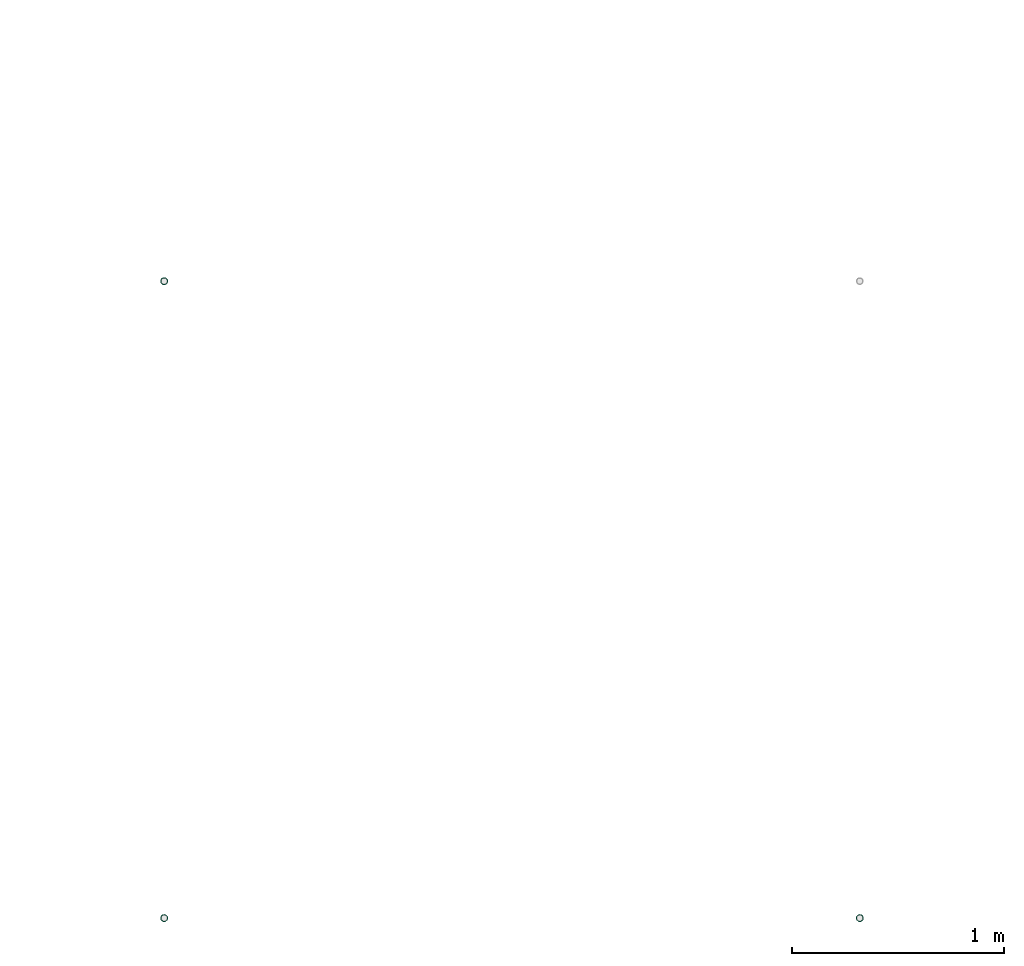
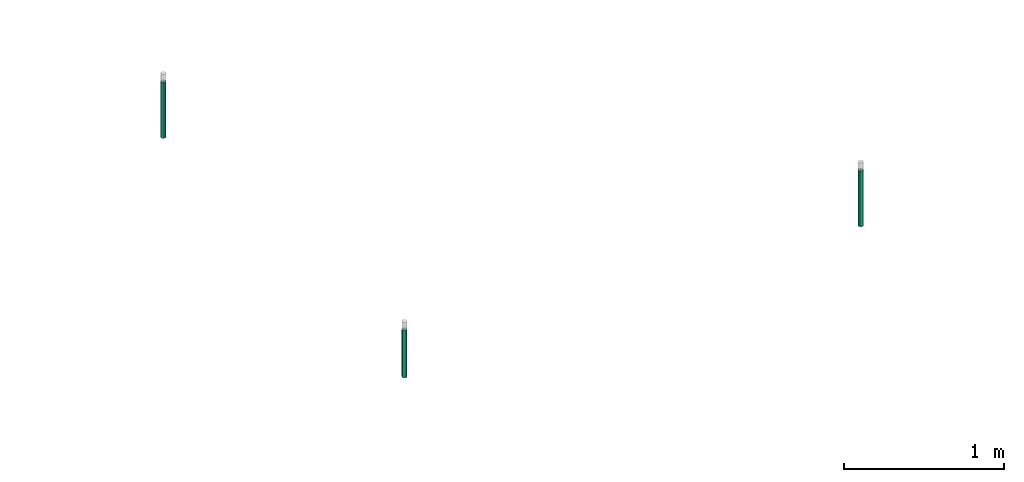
# One storey, part 12 of 14: 3 flow segments.
"""IFC2X3 building model written with IfcOpenShell, lengths in millimetres."""

from ifc_helpers import new_model, entity, si_unit, converted_unit, derived_unit, direction, frame, place, context, subcontext, project, spatial, faceted_brep, type_object, element, save


model = new_model("IFC2X3")

# Units and contexts
model_context = context("Model", 3, precision=0.01, world=frame((0.0, 4.29681676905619e-09, 0.0)), true_north=direction((4.01073788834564e-13, 1.0)))
plan_context = context("Plan", 3, precision=0.01, world=frame((0.0, 4.29681676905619e-09, 0.0)), true_north=direction((4.01073788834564e-13, 1.0)))
body_context = subcontext(model_context, "Body", "Model", "MODEL_VIEW")
ifc_project = project(units=[converted_unit("PLANEANGLEUNIT", "DEGREE", entity("IfcPositiveLengthMeasure", 0.0174532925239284), si_unit("PLANEANGLEUNIT", "RADIAN"), dimensions=[0, 0, 0, 0, 0, 0, 0]), si_unit("AREAUNIT", "SQUARE_METRE"), si_unit("LENGTHUNIT", "METRE", prefix="MILLI"), si_unit("MASSUNIT", "GRAM", prefix="KILO"), si_unit("POWERUNIT", "WATT"), si_unit("PRESSUREUNIT", "PASCAL", prefix="KILO"), si_unit("FORCEUNIT", "NEWTON", prefix="KILO"), si_unit("ELECTRICVOLTAGEUNIT", "VOLT"), si_unit("ELECTRICCURRENTUNIT", "AMPERE"), si_unit("THERMODYNAMICTEMPERATUREUNIT", "DEGREE_CELSIUS"), si_unit("TIMEUNIT", "SECOND"), si_unit("VOLUMEUNIT", "CUBIC_METRE"), derived_unit("LINEARVELOCITYUNIT", [(si_unit("LENGTHUNIT", "METRE"), 1), (si_unit("TIMEUNIT", "SECOND"), -1)]), derived_unit("VOLUMETRICFLOWRATEUNIT", [(si_unit("VOLUMEUNIT", "CUBIC_METRE"), 1), (si_unit("TIMEUNIT", "SECOND"), -1)]), derived_unit("THERMALTRANSMITTANCEUNIT", [(si_unit("POWERUNIT", "WATT"), 1), (si_unit("THERMODYNAMICTEMPERATUREUNIT", "KELVIN"), -1), (si_unit("AREAUNIT", "SQUARE_METRE"), -1)]), derived_unit("SOUNDPRESSUREUNIT", [(si_unit("PRESSUREUNIT", "PASCAL"), 1)])], contexts=[model_context, plan_context])

# Site, building, storey
site_placement = place(None, frame((0.0, -4.29681676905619e-09, 0.0), z_axis=(0.0, 0.0, 1.0), x_axis=(1.0, 0.0, 0.0)))
site = spatial("IfcSite", under=ifc_project, at=site_placement, CompositionType="ELEMENT")
building_placement = place(site_placement, frame((0.0, 4.29681676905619e-09, 0.0), z_axis=(0.0, 0.0, 1.0), x_axis=(1.0, 0.0, 0.0)))
building = spatial("IfcBuilding", under=site, at=building_placement, Name="mc-building", CompositionType="ELEMENT")
storey_placement = place(building_placement, frame((0.0, 0.0, 204000.0), z_axis=(0.0, 0.0, 1.0), x_axis=(1.0, 0.0, 0.0)))
storey = spatial("IfcBuildingStorey", under=building, at=storey_placement, Name="Nivå D", CompositionType="ELEMENT", Elevation=204000.0)

# Flow segments
pipe_segment_type = type_object("IfcPipeSegmentType", Name="Stålrør normaltykke", PredefinedType="RIGIDSEGMENT")
flow_segment_1_placement = place(storey_placement, frame((592000.0, 573505.33925, 5536.29999999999), z_axis=(0.0, 1.0, 0.0), x_axis=(0.0, 0.0, 1.0)))
element("IfcFlowSegment", 1, at=flow_segment_1_placement, inside=storey, type_object=pipe_segment_type, Name="Stålrør normaltykke", context=body_context, shape_type="Brep", body=[
    faceted_brep([(363.700000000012, 14.6736355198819, -2.58735784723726), (363.700000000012, 14.9, 0.0), (787.3, 14.9, 0.0), (787.3, 14.6736355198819, -2.58735784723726), (363.700000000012, 14.00142004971, -5.09610013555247), (787.3, 14.00142004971, -5.09610013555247), (363.700000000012, 12.9037785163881, -7.45), (787.3, 12.9037785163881, -7.45000000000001), (363.700000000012, 11.4140622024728, -9.57753538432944), (787.3, 11.4140622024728, -9.57753538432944), (363.700000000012, 9.57753538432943, -11.4140622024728), (787.3, 9.57753538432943, -11.4140622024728), (363.700000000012, 7.45, -12.9037785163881), (787.3, 7.45, -12.9037785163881), (363.700000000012, 5.09610013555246, -14.00142004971), (787.3, 5.09610013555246, -14.00142004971), (363.700000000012, 2.58735784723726, -14.6736355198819), (787.3, 2.58735784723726, -14.6736355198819), (363.700000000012, -2.73708559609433e-15, -14.9), (787.3, -2.73708559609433e-15, -14.9), (363.700000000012, -2.58735784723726, -14.6736355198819), (787.3, -2.58735784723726, -14.6736355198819), (363.700000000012, -5.09610013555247, -14.00142004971), (787.3, -5.09610013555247, -14.00142004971), (363.700000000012, -7.45, -12.9037785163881), (787.3, -7.45000000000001, -12.9037785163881), (363.700000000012, -9.57753538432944, -11.4140622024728), (787.3, -9.57753538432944, -11.4140622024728), (363.700000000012, -11.4140622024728, -9.57753538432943), (787.3, -11.4140622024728, -9.57753538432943), (363.700000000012, -12.9037785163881, -7.44999999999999), (787.3, -12.9037785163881, -7.44999999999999), (363.700000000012, -14.00142004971, -5.09610013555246), (787.3, -14.00142004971, -5.09610013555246), (363.700000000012, -14.6736355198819, -2.58735784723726), (787.3, -14.6736355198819, -2.58735784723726), (363.700000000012, -14.9, 1.82472373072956e-15), (787.3, -14.9, 1.82472373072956e-15), (363.700000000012, -14.6736355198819, 2.58735784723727), (787.3, -14.6736355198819, 2.58735784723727), (363.700000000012, -14.00142004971, 5.09610013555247), (787.3, -14.00142004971, 5.09610013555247), (363.700000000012, -12.9037785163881, 7.45), (787.3, -12.9037785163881, 7.45), (363.700000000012, -11.4140622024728, 9.57753538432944), (787.3, -11.4140622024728, 9.57753538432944), (363.700000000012, -9.57753538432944, 11.4140622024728), (787.3, -9.57753538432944, 11.4140622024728), (363.700000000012, -7.45, 12.9037785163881), (787.3, -7.45, 12.9037785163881), (363.700000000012, -5.09610013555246, 14.00142004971), (787.3, -5.09610013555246, 14.00142004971), (363.700000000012, -2.58735784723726, 14.6736355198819), (787.3, -2.58735784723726, 14.6736355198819), (363.700000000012, 9.12361865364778e-16, 14.9), (787.3, 9.12361865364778e-16, 14.9), (363.700000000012, 2.58735784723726, 14.6736355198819), (787.3, 2.58735784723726, 14.6736355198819), (363.700000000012, 5.09610013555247, 14.00142004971), (787.3, 5.09610013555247, 14.00142004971), (363.700000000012, 7.45, 12.9037785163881), (787.3, 7.45, 12.9037785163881), (363.700000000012, 9.57753538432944, 11.4140622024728), (787.3, 9.57753538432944, 11.4140622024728), (363.700000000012, 11.4140622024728, 9.57753538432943), (787.3, 11.4140622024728, 9.57753538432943), (363.700000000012, 12.9037785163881, 7.45), (787.3, 12.9037785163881, 7.45), (363.700000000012, 14.00142004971, 5.09610013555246), (787.3, 14.00142004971, 5.09610013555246), (363.700000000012, 14.6736355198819, 2.58735784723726), (787.3, 14.6736355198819, 2.58735784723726), (363.700000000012, 16.9, 0.0), (363.700000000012, 16.6432510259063, -2.93465420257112), (787.3, 16.6432510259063, -2.93465420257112), (787.3, 16.9, 0.0), (363.700000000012, 16.6432510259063, 2.93465420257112), (787.3, 16.6432510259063, 2.93465420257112), (363.700000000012, 15.8808052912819, 5.7801404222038), (787.3, 15.8808052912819, 5.7801404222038), (363.700000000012, 14.635829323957, 8.45), (787.3, 14.635829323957, 8.45), (363.700000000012, 12.9461510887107, 10.8631106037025), (787.3, 12.9461510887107, 10.8631106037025), (363.700000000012, 10.8631106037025, 12.9461510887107), (787.3, 10.8631106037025, 12.9461510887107), (363.700000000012, 8.45, 14.635829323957), (787.3, 8.45, 14.635829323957), (363.700000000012, 5.7801404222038, 15.8808052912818), (787.3, 5.7801404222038, 15.8808052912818), (363.700000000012, 2.93465420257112, 16.6432510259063), (787.3, 2.93465420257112, 16.6432510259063), (363.700000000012, 1.03482654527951e-15, 16.9), (787.3, 1.03482654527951e-15, 16.9), (363.700000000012, -2.93465420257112, 16.6432510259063), (787.3, -2.93465420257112, 16.6432510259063), (363.700000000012, -5.7801404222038, 15.8808052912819), (787.3, -5.7801404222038, 15.8808052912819), (363.700000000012, -8.45, 14.635829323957), (787.3, -8.45, 14.635829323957), (363.700000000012, -10.8631106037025, 12.9461510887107), (787.3, -10.8631106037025, 12.9461510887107), (363.700000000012, -12.9461510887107, 10.8631106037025), (787.3, -12.9461510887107, 10.8631106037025), (363.700000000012, -14.635829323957, 8.45), (787.3, -14.635829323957, 8.45), (363.700000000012, -15.8808052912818, 5.7801404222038), (787.3, -15.8808052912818, 5.7801404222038), (363.700000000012, -16.6432510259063, 2.93465420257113), (787.3, -16.6432510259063, 2.93465420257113), (363.700000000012, -16.9, 2.06965309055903e-15), (787.3, -16.9, 2.06965309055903e-15), (363.700000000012, -16.6432510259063, -2.93465420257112), (787.3, -16.6432510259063, -2.93465420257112), (363.700000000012, -15.8808052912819, -5.7801404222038), (787.3, -15.8808052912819, -5.7801404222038), (363.700000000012, -14.635829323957, -8.44999999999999), (787.3, -14.635829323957, -8.44999999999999), (363.700000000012, -12.9461510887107, -10.8631106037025), (787.3, -12.9461510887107, -10.8631106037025), (363.700000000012, -10.8631106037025, -12.9461510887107), (787.3, -10.8631106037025, -12.9461510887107), (363.700000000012, -8.45000000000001, -14.635829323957), (787.3, -8.45000000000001, -14.635829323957), (363.700000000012, -5.78014042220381, -15.8808052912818), (787.3, -5.78014042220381, -15.8808052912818), (363.700000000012, -2.93465420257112, -16.6432510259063), (787.3, -2.93465420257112, -16.6432510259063), (363.700000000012, -3.10447963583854e-15, -16.9), (787.3, -3.10447963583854e-15, -16.9), (363.700000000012, 2.93465420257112, -16.6432510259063), (787.3, 2.93465420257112, -16.6432510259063), (363.700000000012, 5.78014042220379, -15.8808052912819), (787.3, 5.78014042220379, -15.8808052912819), (363.700000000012, 8.45, -14.635829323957), (787.3, 8.45, -14.635829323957), (363.700000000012, 10.8631106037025, -12.9461510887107), (787.3, 10.8631106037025, -12.9461510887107), (363.700000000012, 12.9461510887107, -10.8631106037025), (787.3, 12.9461510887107, -10.8631106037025), (363.700000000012, 14.635829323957, -8.45000000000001), (787.3, 14.635829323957, -8.45000000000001), (363.700000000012, 15.8808052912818, -5.78014042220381), (787.3, 15.8808052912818, -5.78014042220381)], [[[0, 1, 2, 3]], [[4, 0, 3, 5]], [[6, 4, 5, 7]], [[8, 6, 7, 9]], [[10, 8, 9, 11]], [[12, 10, 11, 13]], [[14, 12, 13, 15]], [[16, 14, 15, 17]], [[18, 16, 17, 19]], [[20, 18, 19, 21]], [[22, 20, 21, 23]], [[24, 22, 23, 25]], [[26, 24, 25, 27]], [[28, 26, 27, 29]], [[30, 28, 29, 31]], [[32, 30, 31, 33]], [[34, 32, 33, 35]], [[36, 34, 35, 37]], [[38, 36, 37, 39]], [[40, 38, 39, 41]], [[42, 40, 41, 43]], [[44, 42, 43, 45]], [[46, 44, 45, 47]], [[48, 46, 47, 49]], [[50, 48, 49, 51]], [[52, 50, 51, 53]], [[54, 52, 53, 55]], [[56, 54, 55, 57]], [[58, 56, 57, 59]], [[60, 58, 59, 61]], [[62, 60, 61, 63]], [[64, 62, 63, 65]], [[66, 64, 65, 67]], [[68, 66, 67, 69]], [[70, 68, 69, 71]], [[1, 70, 71, 2]], [[72, 73, 74, 75]], [[76, 72, 75, 77]], [[78, 76, 77, 79]], [[80, 78, 79, 81]], [[82, 80, 81, 83]], [[84, 82, 83, 85]], [[86, 84, 85, 87]], [[88, 86, 87, 89]], [[90, 88, 89, 91]], [[92, 90, 91, 93]], [[94, 92, 93, 95]], [[96, 94, 95, 97]], [[98, 96, 97, 99]], [[100, 98, 99, 101]], [[102, 100, 101, 103]], [[104, 102, 103, 105]], [[106, 104, 105, 107]], [[108, 106, 107, 109]], [[110, 108, 109, 111]], [[112, 110, 111, 113]], [[114, 112, 113, 115]], [[116, 114, 115, 117]], [[118, 116, 117, 119]], [[120, 118, 119, 121]], [[122, 120, 121, 123]], [[124, 122, 123, 125]], [[126, 124, 125, 127]], [[128, 126, 127, 129]], [[130, 128, 129, 131]], [[132, 130, 131, 133]], [[134, 132, 133, 135]], [[136, 134, 135, 137]], [[138, 136, 137, 139]], [[140, 138, 139, 141]], [[142, 140, 141, 143]], [[73, 142, 143, 74]], [[75, 74, 143, 141, 139, 137, 135, 133, 131, 129, 127, 125, 123, 121, 119, 117, 115, 113, 111, 109, 107, 105, 103, 101, 99, 97, 95, 93, 91, 89, 87, 85, 83, 81, 79, 77], [2, 71, 69, 67, 65, 63, 61, 59, 57, 55, 53, 51, 49, 47, 45, 43, 41, 39, 37, 35, 33, 31, 29, 27, 25, 23, 21, 19, 17, 15, 13, 11, 9, 7, 5, 3]], [[76, 78, 80, 82, 84, 86, 88, 90, 92, 94, 96, 98, 100, 102, 104, 106, 108, 110, 112, 114, 116, 118, 120, 122, 124, 126, 128, 130, 132, 134, 136, 138, 140, 142, 73, 72], [4, 6, 8, 10, 12, 14, 16, 18, 20, 22, 24, 26, 28, 30, 32, 34, 36, 38, 40, 42, 44, 46, 48, 50, 52, 54, 56, 58, 60, 62, 64, 66, 68, 70, 1, 0]]], orient=[[False], [False], [False], [False], [False], [False], [False], [False], [False], [False], [False], [False], [False], [False], [False], [False], [False], [False], [False], [False], [False], [False], [False], [False], [False], [False], [False], [False], [False], [False], [False], [False], [False], [False], [False], [False], [False], [False], [False], [False], [False], [False], [False], [False], [False], [False], [False], [False], [False], [False], [False], [False], [False], [False], [False], [False], [False], [False], [False], [False], [False], [False], [False], [False], [False], [False], [False], [False], [False], [False], [False], [False], [False, False], [False, False]]),
])
flow_segment_2_placement = place(storey_placement, frame((592000.0, 570500.0, 5536.29999999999), z_axis=(0.0, 1.0, 0.0), x_axis=(0.0, 0.0, 1.0)))
element("IfcFlowSegment", 2, at=flow_segment_2_placement, inside=storey, type_object=pipe_segment_type, Name="Stålrør normaltykke", context=body_context, shape_type="Brep", body=[
    faceted_brep([(363.700000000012, 14.6736355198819, -2.58735784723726), (363.700000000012, 14.9, 0.0), (723.9, 14.9, 0.0), (723.9, 14.6736355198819, -2.58735784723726), (363.700000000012, 14.00142004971, -5.09610013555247), (723.9, 14.00142004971, -5.09610013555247), (363.700000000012, 12.9037785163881, -7.45000000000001), (723.9, 12.9037785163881, -7.45000000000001), (363.700000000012, 11.4140622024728, -9.57753538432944), (723.9, 11.4140622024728, -9.57753538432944), (363.700000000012, 9.57753538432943, -11.4140622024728), (723.9, 9.57753538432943, -11.4140622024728), (363.700000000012, 7.45, -12.9037785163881), (723.9, 7.45, -12.9037785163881), (363.700000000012, 5.09610013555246, -14.00142004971), (723.9, 5.09610013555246, -14.00142004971), (363.700000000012, 2.58735784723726, -14.6736355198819), (723.9, 2.58735784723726, -14.6736355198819), (363.700000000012, -2.73708559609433e-15, -14.9), (723.9, -2.73708559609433e-15, -14.9), (363.700000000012, -2.58735784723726, -14.6736355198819), (723.9, -2.58735784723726, -14.6736355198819), (363.700000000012, -5.09610013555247, -14.00142004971), (723.9, -5.09610013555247, -14.00142004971), (363.700000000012, -7.45000000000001, -12.9037785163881), (723.9, -7.45000000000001, -12.9037785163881), (363.700000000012, -9.57753538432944, -11.4140622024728), (723.9, -9.57753538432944, -11.4140622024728), (363.700000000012, -11.4140622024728, -9.57753538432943), (723.9, -11.4140622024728, -9.57753538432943), (363.700000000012, -12.9037785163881, -7.44999999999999), (723.9, -12.9037785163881, -7.44999999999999), (363.700000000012, -14.00142004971, -5.09610013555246), (723.9, -14.00142004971, -5.09610013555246), (363.700000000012, -14.6736355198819, -2.58735784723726), (723.9, -14.6736355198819, -2.58735784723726), (363.700000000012, -14.9, 1.82472373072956e-15), (723.9, -14.9, 1.82472373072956e-15), (363.700000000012, -14.6736355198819, 2.58735784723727), (723.9, -14.6736355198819, 2.58735784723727), (363.700000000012, -14.00142004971, 5.09610013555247), (723.9, -14.00142004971, 5.09610013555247), (363.700000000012, -12.9037785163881, 7.45), (723.9, -12.9037785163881, 7.45), (363.700000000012, -11.4140622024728, 9.57753538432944), (723.9, -11.4140622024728, 9.57753538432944), (363.700000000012, -9.57753538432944, 11.4140622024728), (723.9, -9.57753538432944, 11.4140622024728), (363.700000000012, -7.45, 12.9037785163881), (723.9, -7.45, 12.9037785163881), (363.700000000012, -5.09610013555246, 14.00142004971), (723.9, -5.09610013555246, 14.00142004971), (363.700000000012, -2.58735784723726, 14.6736355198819), (723.9, -2.58735784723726, 14.6736355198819), (363.700000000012, 9.12361865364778e-16, 14.9), (723.9, 9.12361865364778e-16, 14.9), (363.700000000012, 2.58735784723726, 14.6736355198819), (723.9, 2.58735784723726, 14.6736355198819), (363.700000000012, 5.09610013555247, 14.00142004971), (723.9, 5.09610013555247, 14.00142004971), (363.700000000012, 7.45, 12.9037785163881), (723.9, 7.45, 12.9037785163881), (363.700000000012, 9.57753538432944, 11.4140622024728), (723.9, 9.57753538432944, 11.4140622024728), (363.700000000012, 11.4140622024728, 9.57753538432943), (723.9, 11.4140622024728, 9.57753538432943), (363.700000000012, 12.9037785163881, 7.45), (723.9, 12.9037785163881, 7.45), (363.700000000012, 14.00142004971, 5.09610013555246), (723.9, 14.00142004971, 5.09610013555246), (363.700000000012, 14.6736355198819, 2.58735784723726), (723.9, 14.6736355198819, 2.58735784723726), (363.700000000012, 16.9, 0.0), (363.700000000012, 16.6432510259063, -2.93465420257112), (723.9, 16.6432510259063, -2.93465420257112), (723.9, 16.9, 0.0), (363.700000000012, 16.6432510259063, 2.93465420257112), (723.9, 16.6432510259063, 2.93465420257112), (363.700000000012, 15.8808052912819, 5.7801404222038), (723.9, 15.8808052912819, 5.7801404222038), (363.700000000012, 14.635829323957, 8.45), (723.9, 14.635829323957, 8.45), (363.700000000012, 12.9461510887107, 10.8631106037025), (723.9, 12.9461510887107, 10.8631106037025), (363.700000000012, 10.8631106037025, 12.9461510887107), (723.9, 10.8631106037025, 12.9461510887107), (363.700000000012, 8.45, 14.635829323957), (723.9, 8.45, 14.635829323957), (363.700000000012, 5.7801404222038, 15.8808052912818), (723.9, 5.7801404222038, 15.8808052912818), (363.700000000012, 2.93465420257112, 16.6432510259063), (723.9, 2.93465420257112, 16.6432510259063), (363.700000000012, 1.03482654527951e-15, 16.9), (723.9, 1.03482654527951e-15, 16.9), (363.700000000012, -2.93465420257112, 16.6432510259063), (723.9, -2.93465420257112, 16.6432510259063), (363.700000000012, -5.7801404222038, 15.8808052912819), (723.9, -5.7801404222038, 15.8808052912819), (363.700000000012, -8.45, 14.635829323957), (723.9, -8.45, 14.635829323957), (363.700000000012, -10.8631106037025, 12.9461510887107), (723.9, -10.8631106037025, 12.9461510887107), (363.700000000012, -12.9461510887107, 10.8631106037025), (723.9, -12.9461510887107, 10.8631106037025), (363.700000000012, -14.635829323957, 8.45), (723.9, -14.635829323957, 8.45), (363.700000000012, -15.8808052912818, 5.7801404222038), (723.9, -15.8808052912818, 5.7801404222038), (363.700000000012, -16.6432510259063, 2.93465420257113), (723.9, -16.6432510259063, 2.93465420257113), (363.700000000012, -16.9, 2.06965309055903e-15), (723.9, -16.9, 2.06965309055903e-15), (363.700000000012, -16.6432510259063, -2.93465420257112), (723.9, -16.6432510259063, -2.93465420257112), (363.700000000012, -15.8808052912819, -5.7801404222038), (723.9, -15.8808052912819, -5.7801404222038), (363.700000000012, -14.635829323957, -8.44999999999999), (723.9, -14.635829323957, -8.44999999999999), (363.700000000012, -12.9461510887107, -10.8631106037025), (723.9, -12.9461510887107, -10.8631106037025), (363.700000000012, -10.8631106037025, -12.9461510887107), (723.9, -10.8631106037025, -12.9461510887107), (363.700000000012, -8.45000000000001, -14.635829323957), (723.9, -8.45000000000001, -14.635829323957), (363.700000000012, -5.78014042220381, -15.8808052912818), (723.9, -5.78014042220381, -15.8808052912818), (363.700000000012, -2.93465420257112, -16.6432510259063), (723.9, -2.93465420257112, -16.6432510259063), (363.700000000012, -3.10447963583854e-15, -16.9), (723.9, -3.10447963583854e-15, -16.9), (363.700000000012, 2.93465420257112, -16.6432510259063), (723.9, 2.93465420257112, -16.6432510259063), (363.700000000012, 5.78014042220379, -15.8808052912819), (723.9, 5.78014042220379, -15.8808052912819), (363.700000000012, 8.45, -14.635829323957), (723.9, 8.45, -14.635829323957), (363.700000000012, 10.8631106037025, -12.9461510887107), (723.9, 10.8631106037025, -12.9461510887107), (363.700000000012, 12.9461510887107, -10.8631106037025), (723.9, 12.9461510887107, -10.8631106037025), (363.700000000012, 14.635829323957, -8.45000000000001), (723.9, 14.635829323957, -8.45000000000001), (363.700000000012, 15.8808052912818, -5.78014042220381), (723.9, 15.8808052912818, -5.78014042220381)], [[[0, 1, 2, 3]], [[4, 0, 3, 5]], [[6, 4, 5, 7]], [[8, 6, 7, 9]], [[10, 8, 9, 11]], [[12, 10, 11, 13]], [[14, 12, 13, 15]], [[16, 14, 15, 17]], [[18, 16, 17, 19]], [[20, 18, 19, 21]], [[22, 20, 21, 23]], [[24, 22, 23, 25]], [[26, 24, 25, 27]], [[28, 26, 27, 29]], [[30, 28, 29, 31]], [[32, 30, 31, 33]], [[34, 32, 33, 35]], [[36, 34, 35, 37]], [[38, 36, 37, 39]], [[40, 38, 39, 41]], [[42, 40, 41, 43]], [[44, 42, 43, 45]], [[46, 44, 45, 47]], [[48, 46, 47, 49]], [[50, 48, 49, 51]], [[52, 50, 51, 53]], [[54, 52, 53, 55]], [[56, 54, 55, 57]], [[58, 56, 57, 59]], [[60, 58, 59, 61]], [[62, 60, 61, 63]], [[64, 62, 63, 65]], [[66, 64, 65, 67]], [[68, 66, 67, 69]], [[70, 68, 69, 71]], [[1, 70, 71, 2]], [[72, 73, 74, 75]], [[76, 72, 75, 77]], [[78, 76, 77, 79]], [[80, 78, 79, 81]], [[82, 80, 81, 83]], [[84, 82, 83, 85]], [[86, 84, 85, 87]], [[88, 86, 87, 89]], [[90, 88, 89, 91]], [[92, 90, 91, 93]], [[94, 92, 93, 95]], [[96, 94, 95, 97]], [[98, 96, 97, 99]], [[100, 98, 99, 101]], [[102, 100, 101, 103]], [[104, 102, 103, 105]], [[106, 104, 105, 107]], [[108, 106, 107, 109]], [[110, 108, 109, 111]], [[112, 110, 111, 113]], [[114, 112, 113, 115]], [[116, 114, 115, 117]], [[118, 116, 117, 119]], [[120, 118, 119, 121]], [[122, 120, 121, 123]], [[124, 122, 123, 125]], [[126, 124, 125, 127]], [[128, 126, 127, 129]], [[130, 128, 129, 131]], [[132, 130, 131, 133]], [[134, 132, 133, 135]], [[136, 134, 135, 137]], [[138, 136, 137, 139]], [[140, 138, 139, 141]], [[142, 140, 141, 143]], [[73, 142, 143, 74]], [[75, 74, 143, 141, 139, 137, 135, 133, 131, 129, 127, 125, 123, 121, 119, 117, 115, 113, 111, 109, 107, 105, 103, 101, 99, 97, 95, 93, 91, 89, 87, 85, 83, 81, 79, 77], [2, 71, 69, 67, 65, 63, 61, 59, 57, 55, 53, 51, 49, 47, 45, 43, 41, 39, 37, 35, 33, 31, 29, 27, 25, 23, 21, 19, 17, 15, 13, 11, 9, 7, 5, 3]], [[76, 78, 80, 82, 84, 86, 88, 90, 92, 94, 96, 98, 100, 102, 104, 106, 108, 110, 112, 114, 116, 118, 120, 122, 124, 126, 128, 130, 132, 134, 136, 138, 140, 142, 73, 72], [4, 6, 8, 10, 12, 14, 16, 18, 20, 22, 24, 26, 28, 30, 32, 34, 36, 38, 40, 42, 44, 46, 48, 50, 52, 54, 56, 58, 60, 62, 64, 66, 68, 70, 1, 0]]], orient=[[False], [False], [False], [False], [False], [False], [False], [False], [False], [False], [False], [False], [False], [False], [False], [False], [False], [False], [False], [False], [False], [False], [False], [False], [False], [False], [False], [False], [False], [False], [False], [False], [False], [False], [False], [False], [False], [False], [False], [False], [False], [False], [False], [False], [False], [False], [False], [False], [False], [False], [False], [False], [False], [False], [False], [False], [False], [False], [False], [False], [False], [False], [False], [False], [False], [False], [False], [False], [False], [False], [False], [False], [False, False], [False, False]]),
])
flow_segment_3_placement = place(storey_placement, frame((595282.94288, 570500.0, 5536.29999999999), z_axis=(0.0, 1.0, 0.0), x_axis=(0.0, 0.0, 1.0)))
element("IfcFlowSegment", 3, at=flow_segment_3_placement, inside=storey, type_object=pipe_segment_type, Name="Stålrør normaltykke", context=body_context, shape_type="Brep", body=[
    faceted_brep([(363.700000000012, 14.6736355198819, -2.58735784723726), (363.700000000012, 14.9, 0.0), (788.5, 14.9, 0.0), (788.5, 14.6736355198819, -2.58735784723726), (363.700000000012, 14.00142004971, -5.09610013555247), (788.5, 14.00142004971, -5.09610013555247), (363.700000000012, 12.9037785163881, -7.45000000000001), (788.5, 12.9037785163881, -7.45000000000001), (363.700000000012, 11.4140622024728, -9.57753538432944), (788.5, 11.4140622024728, -9.57753538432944), (363.700000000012, 9.57753538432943, -11.4140622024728), (788.5, 9.57753538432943, -11.4140622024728), (363.700000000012, 7.45, -12.9037785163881), (788.5, 7.45, -12.9037785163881), (363.700000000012, 5.09610013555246, -14.00142004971), (788.5, 5.09610013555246, -14.00142004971), (363.700000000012, 2.58735784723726, -14.6736355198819), (788.5, 2.58735784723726, -14.6736355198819), (363.700000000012, -2.73708559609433e-15, -14.9), (788.5, -2.73708559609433e-15, -14.9), (363.700000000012, -2.58735784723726, -14.6736355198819), (788.5, -2.58735784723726, -14.6736355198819), (363.700000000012, -5.09610013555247, -14.00142004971), (788.5, -5.09610013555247, -14.00142004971), (363.700000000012, -7.45000000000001, -12.9037785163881), (788.5, -7.45000000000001, -12.9037785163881), (363.700000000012, -9.57753538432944, -11.4140622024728), (788.5, -9.57753538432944, -11.4140622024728), (363.700000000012, -11.4140622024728, -9.57753538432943), (788.5, -11.4140622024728, -9.57753538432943), (363.700000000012, -12.9037785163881, -7.45), (788.5, -12.9037785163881, -7.44999999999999), (363.700000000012, -14.00142004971, -5.09610013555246), (788.5, -14.00142004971, -5.09610013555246), (363.700000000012, -14.6736355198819, -2.58735784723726), (788.5, -14.6736355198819, -2.58735784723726), (363.700000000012, -14.9, 1.82472373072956e-15), (788.5, -14.9, 1.82472373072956e-15), (363.700000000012, -14.6736355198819, 2.58735784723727), (788.5, -14.6736355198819, 2.58735784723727), (363.700000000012, -14.00142004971, 5.09610013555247), (788.5, -14.00142004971, 5.09610013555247), (363.700000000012, -12.9037785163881, 7.45), (788.5, -12.9037785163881, 7.45), (363.700000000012, -11.4140622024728, 9.57753538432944), (788.5, -11.4140622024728, 9.57753538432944), (363.700000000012, -9.57753538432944, 11.4140622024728), (788.5, -9.57753538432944, 11.4140622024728), (363.700000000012, -7.45, 12.9037785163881), (788.5, -7.45, 12.9037785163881), (363.700000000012, -5.09610013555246, 14.00142004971), (788.5, -5.09610013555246, 14.00142004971), (363.700000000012, -2.58735784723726, 14.6736355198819), (788.5, -2.58735784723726, 14.6736355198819), (363.700000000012, 9.12361865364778e-16, 14.9), (788.5, 9.12361865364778e-16, 14.9), (363.700000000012, 2.58735784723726, 14.6736355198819), (788.5, 2.58735784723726, 14.6736355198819), (363.700000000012, 5.09610013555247, 14.00142004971), (788.5, 5.09610013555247, 14.00142004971), (363.700000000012, 7.45, 12.9037785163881), (788.5, 7.45, 12.9037785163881), (363.700000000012, 9.57753538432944, 11.4140622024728), (788.5, 9.57753538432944, 11.4140622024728), (363.700000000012, 11.4140622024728, 9.57753538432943), (788.5, 11.4140622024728, 9.57753538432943), (363.700000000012, 12.9037785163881, 7.45), (788.5, 12.9037785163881, 7.45), (363.700000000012, 14.00142004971, 5.09610013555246), (788.5, 14.00142004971, 5.09610013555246), (363.700000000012, 14.6736355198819, 2.58735784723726), (788.5, 14.6736355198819, 2.58735784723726), (363.700000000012, 16.9, 0.0), (363.700000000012, 16.6432510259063, -2.93465420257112), (788.5, 16.6432510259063, -2.93465420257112), (788.5, 16.9, 0.0), (363.700000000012, 16.6432510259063, 2.93465420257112), (788.5, 16.6432510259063, 2.93465420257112), (363.700000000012, 15.8808052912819, 5.7801404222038), (788.5, 15.8808052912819, 5.7801404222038), (363.700000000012, 14.635829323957, 8.45), (788.5, 14.635829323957, 8.45), (363.700000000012, 12.9461510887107, 10.8631106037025), (788.5, 12.9461510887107, 10.8631106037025), (363.700000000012, 10.8631106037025, 12.9461510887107), (788.5, 10.8631106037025, 12.9461510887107), (363.700000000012, 8.45, 14.635829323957), (788.5, 8.45, 14.635829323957), (363.700000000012, 5.7801404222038, 15.8808052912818), (788.5, 5.7801404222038, 15.8808052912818), (363.700000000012, 2.93465420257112, 16.6432510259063), (788.5, 2.93465420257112, 16.6432510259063), (363.700000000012, 1.03482654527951e-15, 16.9), (788.5, 1.03482654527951e-15, 16.9), (363.700000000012, -2.93465420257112, 16.6432510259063), (788.5, -2.93465420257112, 16.6432510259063), (363.700000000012, -5.7801404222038, 15.8808052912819), (788.5, -5.7801404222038, 15.8808052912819), (363.700000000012, -8.45, 14.635829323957), (788.5, -8.45, 14.635829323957), (363.700000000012, -10.8631106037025, 12.9461510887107), (788.5, -10.8631106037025, 12.9461510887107), (363.700000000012, -12.9461510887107, 10.8631106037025), (788.5, -12.9461510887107, 10.8631106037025), (363.700000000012, -14.635829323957, 8.45), (788.5, -14.635829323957, 8.45), (363.700000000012, -15.8808052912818, 5.7801404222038), (788.5, -15.8808052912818, 5.7801404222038), (363.700000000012, -16.6432510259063, 2.93465420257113), (788.5, -16.6432510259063, 2.93465420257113), (363.700000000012, -16.9, 2.06965309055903e-15), (788.5, -16.9, 2.06965309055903e-15), (363.700000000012, -16.6432510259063, -2.93465420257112), (788.5, -16.6432510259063, -2.93465420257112), (363.700000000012, -15.8808052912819, -5.7801404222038), (788.5, -15.8808052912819, -5.7801404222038), (363.700000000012, -14.635829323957, -8.44999999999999), (788.5, -14.635829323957, -8.44999999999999), (363.700000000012, -12.9461510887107, -10.8631106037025), (788.5, -12.9461510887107, -10.8631106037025), (363.700000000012, -10.8631106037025, -12.9461510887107), (788.5, -10.8631106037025, -12.9461510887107), (363.700000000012, -8.45000000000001, -14.635829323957), (788.5, -8.45000000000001, -14.635829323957), (363.700000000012, -5.78014042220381, -15.8808052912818), (788.5, -5.78014042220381, -15.8808052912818), (363.700000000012, -2.93465420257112, -16.6432510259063), (788.5, -2.93465420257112, -16.6432510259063), (363.700000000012, -3.10447963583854e-15, -16.9), (788.5, -3.10447963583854e-15, -16.9), (363.700000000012, 2.93465420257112, -16.6432510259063), (788.5, 2.93465420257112, -16.6432510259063), (363.700000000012, 5.78014042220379, -15.8808052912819), (788.5, 5.78014042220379, -15.8808052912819), (363.700000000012, 8.45, -14.635829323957), (788.5, 8.45, -14.635829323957), (363.700000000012, 10.8631106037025, -12.9461510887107), (788.5, 10.8631106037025, -12.9461510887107), (363.700000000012, 12.9461510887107, -10.8631106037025), (788.5, 12.9461510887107, -10.8631106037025), (363.700000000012, 14.635829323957, -8.45000000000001), (788.5, 14.635829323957, -8.45000000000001), (363.700000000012, 15.8808052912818, -5.78014042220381), (788.5, 15.8808052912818, -5.78014042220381)], [[[0, 1, 2, 3]], [[4, 0, 3, 5]], [[6, 4, 5, 7]], [[8, 6, 7, 9]], [[10, 8, 9, 11]], [[12, 10, 11, 13]], [[14, 12, 13, 15]], [[16, 14, 15, 17]], [[18, 16, 17, 19]], [[20, 18, 19, 21]], [[22, 20, 21, 23]], [[24, 22, 23, 25]], [[26, 24, 25, 27]], [[28, 26, 27, 29]], [[30, 28, 29, 31]], [[32, 30, 31, 33]], [[34, 32, 33, 35]], [[36, 34, 35, 37]], [[38, 36, 37, 39]], [[40, 38, 39, 41]], [[42, 40, 41, 43]], [[44, 42, 43, 45]], [[46, 44, 45, 47]], [[48, 46, 47, 49]], [[50, 48, 49, 51]], [[52, 50, 51, 53]], [[54, 52, 53, 55]], [[56, 54, 55, 57]], [[58, 56, 57, 59]], [[60, 58, 59, 61]], [[62, 60, 61, 63]], [[64, 62, 63, 65]], [[66, 64, 65, 67]], [[68, 66, 67, 69]], [[70, 68, 69, 71]], [[1, 70, 71, 2]], [[72, 73, 74, 75]], [[76, 72, 75, 77]], [[78, 76, 77, 79]], [[80, 78, 79, 81]], [[82, 80, 81, 83]], [[84, 82, 83, 85]], [[86, 84, 85, 87]], [[88, 86, 87, 89]], [[90, 88, 89, 91]], [[92, 90, 91, 93]], [[94, 92, 93, 95]], [[96, 94, 95, 97]], [[98, 96, 97, 99]], [[100, 98, 99, 101]], [[102, 100, 101, 103]], [[104, 102, 103, 105]], [[106, 104, 105, 107]], [[108, 106, 107, 109]], [[110, 108, 109, 111]], [[112, 110, 111, 113]], [[114, 112, 113, 115]], [[116, 114, 115, 117]], [[118, 116, 117, 119]], [[120, 118, 119, 121]], [[122, 120, 121, 123]], [[124, 122, 123, 125]], [[126, 124, 125, 127]], [[128, 126, 127, 129]], [[130, 128, 129, 131]], [[132, 130, 131, 133]], [[134, 132, 133, 135]], [[136, 134, 135, 137]], [[138, 136, 137, 139]], [[140, 138, 139, 141]], [[142, 140, 141, 143]], [[73, 142, 143, 74]], [[75, 74, 143, 141, 139, 137, 135, 133, 131, 129, 127, 125, 123, 121, 119, 117, 115, 113, 111, 109, 107, 105, 103, 101, 99, 97, 95, 93, 91, 89, 87, 85, 83, 81, 79, 77], [2, 71, 69, 67, 65, 63, 61, 59, 57, 55, 53, 51, 49, 47, 45, 43, 41, 39, 37, 35, 33, 31, 29, 27, 25, 23, 21, 19, 17, 15, 13, 11, 9, 7, 5, 3]], [[76, 78, 80, 82, 84, 86, 88, 90, 92, 94, 96, 98, 100, 102, 104, 106, 108, 110, 112, 114, 116, 118, 120, 122, 124, 126, 128, 130, 132, 134, 136, 138, 140, 142, 73, 72], [4, 6, 8, 10, 12, 14, 16, 18, 20, 22, 24, 26, 28, 30, 32, 34, 36, 38, 40, 42, 44, 46, 48, 50, 52, 54, 56, 58, 60, 62, 64, 66, 68, 70, 1, 0]]], orient=[[False], [False], [False], [False], [False], [False], [False], [False], [False], [False], [False], [False], [False], [False], [False], [False], [False], [False], [False], [False], [False], [False], [False], [False], [False], [False], [False], [False], [False], [False], [False], [False], [False], [False], [False], [False], [False], [False], [False], [False], [False], [False], [False], [False], [False], [False], [False], [False], [False], [False], [False], [False], [False], [False], [False], [False], [False], [False], [False], [False], [False], [False], [False], [False], [False], [False], [False], [False], [False], [False], [False], [False], [False, False], [False, False]]),
])

save(model, "model.ifc")
